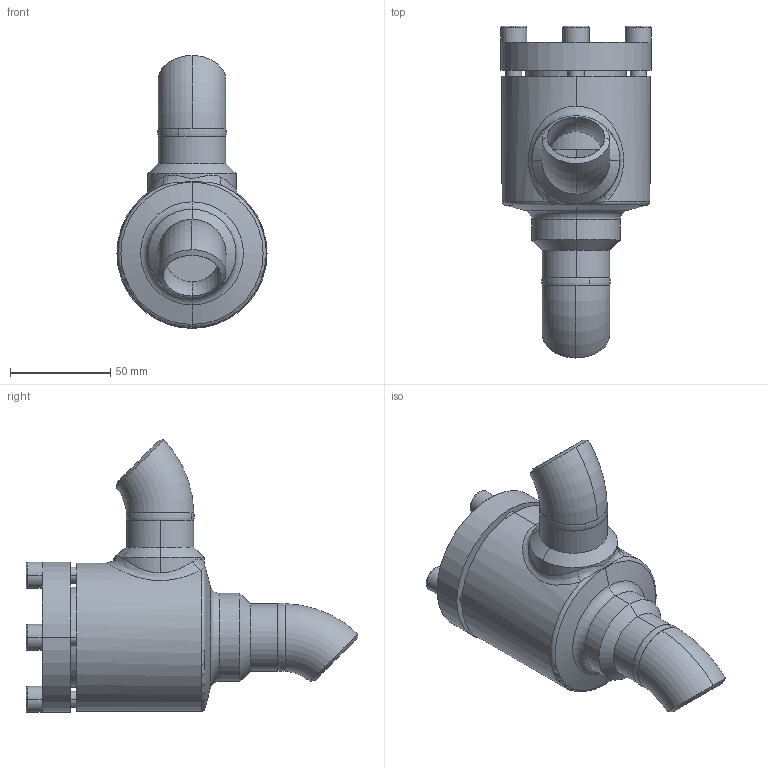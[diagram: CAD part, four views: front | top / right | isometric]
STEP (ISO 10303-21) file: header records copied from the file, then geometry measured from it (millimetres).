
FILE_DESCRIPTION (( 'STEP AP214' ), '1' );
FILE_NAME ('RV28300D12-DN025_R1_PS40.STEP', '2006-04-28T05:14:22', ( 'Herr Grams' ), ( 'AWP GmbH' ), 'SwSTEP 2.0', 'SolidWorks 2002296', '' );
FILE_SCHEMA (( 'AUTOMOTIVE_DESIGN' ));
Length unit declared in the file: millimetre
Products named in the file (9): RV28300D12-DN025_R1_PS40; Gehäuse-kpl16300-DN025_R1_Standard; Gehäuse16400-DN025_Standard; Rohrbogen 45°_R1-Fase_Rohrbogen-DN025-45°; bead16300-Geh-025-1_Standard; bead16300-Geh-025-2_Standard; RV28300E13_Deck+Schr-DN25-32_Standard; Deckel28300E13-DN25-32_Standard; Zylinderschraube-DIN912_M 8x 25
Assembly tree (12 placements, depth 3):
  RV28300D12-DN025_R1_PS40
    RV28300E13_Deck+Schr-DN25-32_Standard
      Zylinderschraube-DIN912_M 8x 25  x4
      Deckel28300E13-DN25-32_Standard
    Gehäuse-kpl16300-DN025_R1_Standard
      bead16300-Geh-025-2_Standard
      Rohrbogen 45°_R1-Fase_Rohrbogen-DN025-45°  x2
      Gehäuse16400-DN025_Standard
      bead16300-Geh-025-1_Standard
Bounding box: 75 x 165.78 x 136.28 mm (x, y, z)
Volume: 303412.1 mm3; surface area: 82551.8 mm2
Topology: 10 solids, 10 shells, 175 faces, 393 edges, 247 vertices
Faces by surface type: plane 56, cylinder 51, cone 37, torus 20, bspline 11
Entity records: 28762 total; most frequent: CARTESIAN_POINT 25665, DIRECTION 539, ORIENTED_EDGE 514, EDGE_CURVE 257, AXIS2_PLACEMENT_3D 228, VERTEX_POINT 161, EDGE_LOOP 132, ADVANCED_FACE 111
